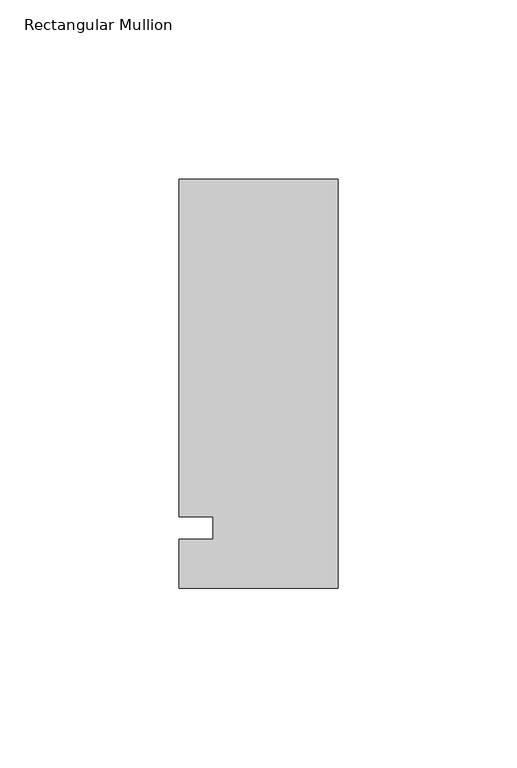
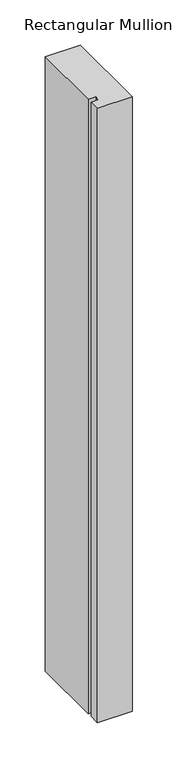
"""IFC4 building model written with IfcOpenShell, lengths in millimetres: member geometry, Rectangular Mullion : Kawneer-TRIFAB_VG_450_BACK_SB_Sill."""

from ifc_helpers import new_model, si_unit, frame, origin, place, context, project, spatial, polyline, outline, extrude, source, transform, mapped, element, save


def rectangular_mullion_e9066878(model_context):
    return source(origin(), model_context, "Body", "SweptSolid", [
        extrude(outline(polyline([(-44.45, -16.8840492), (-44.45, -3.175), (-34.925, -3.175), (-34.925, 3.175), (-44.45, 3.175), (-44.45, 97.4159508), (0.0, 97.4159508), (0.0, -16.8840492), (-44.45, -16.8840492)])), frame((0.0, 0.0, -826.3094133), z_axis=(0.0, 0.0, 1.0), x_axis=(1.0, 0.0, 0.0)), (0.0, 0.0, 1.0), 826.3094133),
    ])


if __name__ == "__main__":
    model = new_model("IFC4")
    model_context = context("Model", 3, world=origin())
    ifc_project = project(units=[si_unit("LENGTHUNIT", "METRE", prefix="MILLI")], contexts=[model_context])
    site = spatial("IfcSite", under=ifc_project)
    building = spatial("IfcBuilding", under=site)
    placement = place(None, origin())
    rectangular_mullion_shape = rectangular_mullion_e9066878(model_context)
    element("IfcMember", 1, ObjectType="Rectangular Mullion : Kawneer-TRIFAB_VG_450_BACK_SB_Sill", at=placement, inside=building, context=model_context, shape_type="MappedRepresentation", body=[
        mapped(rectangular_mullion_shape, transform((0.0, 0.0, 0.0), x_axis=(1.0, 0.0, 0.0), y_axis=(0.0, 1.0, 0.0), z_axis=(0.0, 0.0, 1.0))),
    ])
    save(model, "model.ifc")
